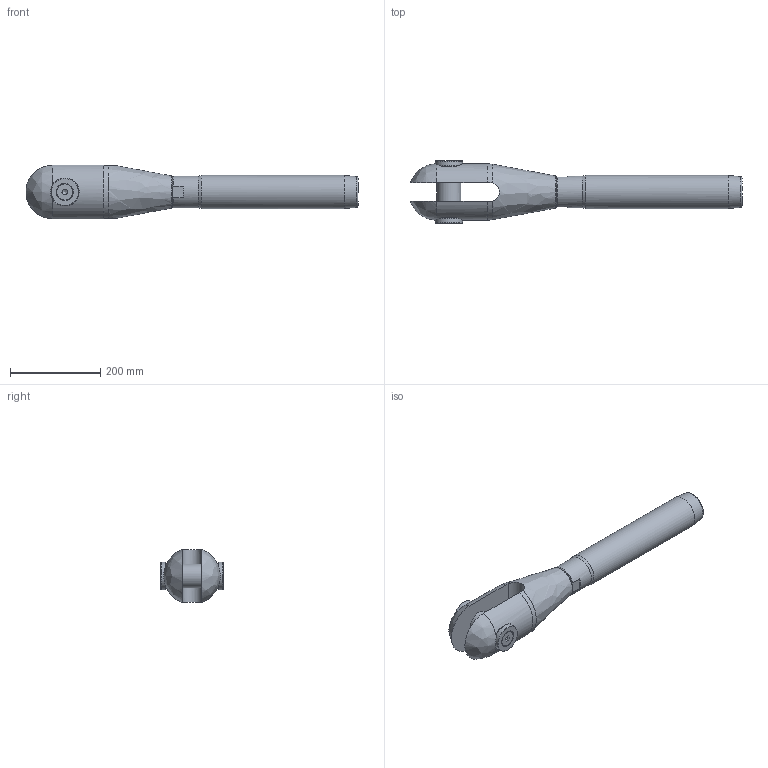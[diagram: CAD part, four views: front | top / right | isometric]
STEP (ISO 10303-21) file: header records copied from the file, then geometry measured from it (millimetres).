
FILE_DESCRIPTION(/* description */ (''),/* implementation_level */ '2;1');
FILE_NAME(/* name */ 'MAC-R 38_1,4418',/* time_stamp */ '2023-05-23T17:52:21+02:00',/* author */ (''),/* organization */ (''),/* preprocessor_version */ 'ST-DEVELOPER v16.5',/* originating_system */ 'Rhino 7.22',/* authorisation */ '');
FILE_SCHEMA (('CONFIG_CONTROL_DESIGN'));
Length unit declared in the file: millimetre
Products named in the file (1): Document
Bounding box: 733.77 x 137.73 x 117.73 mm (x, y, z)
Volume: 3974851.4 mm3; surface area: 339503.8 mm2
Topology: 7 solids, 7 shells, 88 faces, 245 edges, 170 vertices
Faces by surface type: plane 36, bspline 28, cylinder 24
Full cylindrical faces by diameter (mm): 17.294 x2, 20 x2, 21 x2, 35.4 x2, 52.752 x1, 53 x1, 54 x2, 56 x1, 61 x2, 70 x1, 73.5 x1
Entity records: 3554 total; most frequent: CARTESIAN_POINT 1995, ORIENTED_EDGE 480, EDGE_CURVE 240, VERTEX_POINT 170, EDGE_LOOP 100, B_SPLINE_CURVE_WITH_KNOTS 97, ADVANCED_FACE 88, FACE_OUTER_BOUND 88
